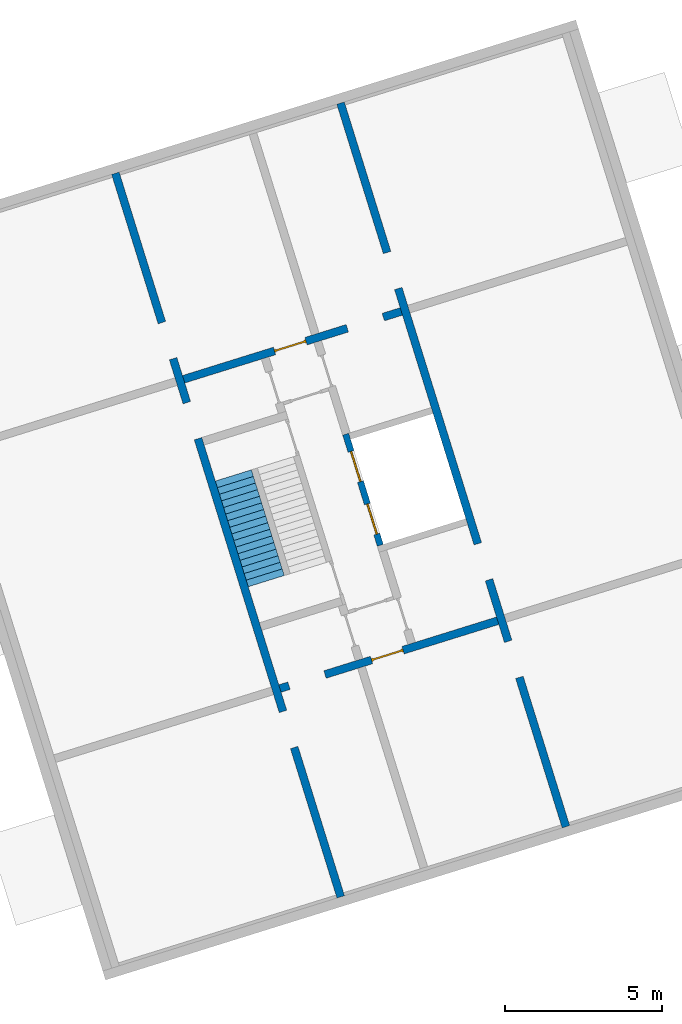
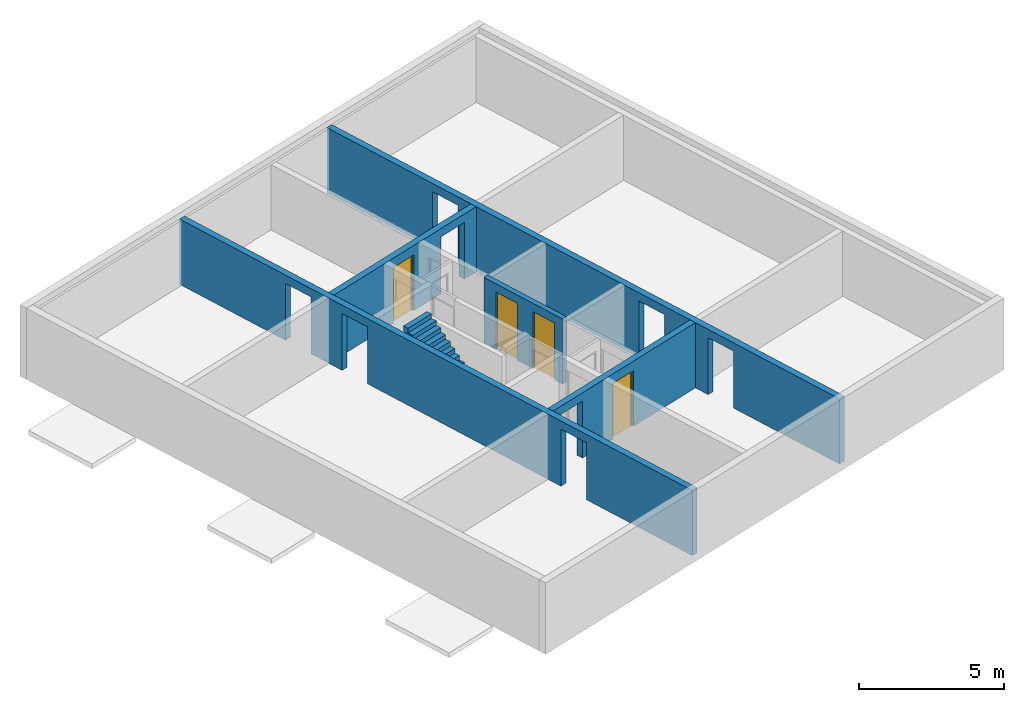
# One storey, part 3 of 4: 5 walls, 4 doors, 1 stair flight, 12 openings, 1 element without a shape of its own.
"""IFC4 building model written with IfcOpenShell, lengths in metres."""

import ifcopenshell
import ifcopenshell.guid

model = None  # the IFC model being written
_history = None  # IfcOwnerHistory: only IFC2X3 demands one
_inside = {}  # id of a spatial element -> (the spatial element, [elements in it])
_under = {}  # id of a project, library or spatial element -> (it, [spatial elements below it])
_declared = {}  # id of a project -> (the project, [libraries it declares])
_typed = {}  # id of a type object -> (the type object, [elements of that type])
_made_of = {}  # id of a material, layer set ... -> (it, [elements and type objects made of it])


def new_model(schema):
    """Start an empty IFC model of exactly this schema.

    Asked for "IFC4X3", IfcOpenShell would pick the latest addendum, in which some entities
    have other attributes; the version numbers below select the first issue.
    IFC2X3 requires an IfcOwnerHistory on every rooted entity: one is made here for all.
    """
    global model, _history
    if schema == "IFC4X3":
        model = ifcopenshell.file(schema_version=(4, 3, 0, 0))
    else:
        model = ifcopenshell.file(schema=schema)
    _inside.clear()
    _under.clear()
    _declared.clear()
    _typed.clear()
    _made_of.clear()
    _history = None
    if model.schema == "IFC2X3":
        org = make("IfcOrganization", Name="unknown")
        user = make(
            "IfcPersonAndOrganization",
            ThePerson=make("IfcPerson", FamilyName="unknown"),
            TheOrganization=org,
        )
        app = make(
            "IfcApplication",
            ApplicationDeveloper=org,
            Version="unknown",
            ApplicationFullName="unknown",
            ApplicationIdentifier="unknown",
        )
        _history = make(
            "IfcOwnerHistory",
            OwningUser=user,
            OwningApplication=app,
            ChangeAction="ADDED",
            CreationDate=0,
        )
    return model


def make(cls, **values):
    """One entity of the class cls with the attributes given. An attribute that is None is left unset."""
    return model.create_entity(
        cls, **{name: value for name, value in values.items() if value is not None}
    )


def entity(cls, *values):
    """Any entity or typed value of the class cls, its attributes in the order of the schema. None: left unset."""
    e = model.create_entity(cls)
    for i, value in enumerate(values):
        if value is not None:
            e[i] = value
    return e


def rooted(cls, **values):
    """An entity with a GlobalId (a new one), such as an element, a storey or a relation."""
    return make(cls, GlobalId=ifcopenshell.guid.new(), OwnerHistory=_history, **values)


def si_unit(unit_type, name, prefix=None):
    """IfcSIUnit, for example si_unit("LENGTHUNIT", "METRE", prefix="MILLI")."""
    return make("IfcSIUnit", UnitType=unit_type, Prefix=prefix, Name=name)


def converted_unit(unit_type, name, factor, base, dimensions=None, offset=None):
    """IfcConversionBasedUnit, such as the inch: factor (a typed value) times the base unit."""
    return make(
        "IfcConversionBasedUnit"
        if offset is None
        else "IfcConversionBasedUnitWithOffset",
        ConversionOffset=offset,
        Dimensions=None
        if dimensions is None
        else entity("IfcDimensionalExponents", *dimensions),
        UnitType=unit_type,
        Name=name,
        ConversionFactor=make(
            "IfcMeasureWithUnit", ValueComponent=factor, UnitComponent=base
        ),
    )


def assignment(units):
    """IfcUnitAssignment: the units of a project."""
    return None if units is None else make("IfcUnitAssignment", Units=units)


def point(xyz):
    """IfcCartesianPoint."""
    return None if xyz is None else make("IfcCartesianPoint", Coordinates=xyz)


def direction(xyz):
    """IfcDirection."""
    return None if xyz is None else make("IfcDirection", DirectionRatios=xyz)


def frame(location, z_axis=None, x_axis=None):
    """IfcAxis2Placement3D, a coordinate frame: its origin and axes. An axis left out is left unset."""
    return make(
        "IfcAxis2Placement3D",
        Location=point(location),
        Axis=direction(z_axis),
        RefDirection=direction(x_axis),
    )


def origin():
    """The frame at (0, 0, 0) with its axes left unset."""
    return frame((0.0, 0.0, 0.0))


def place(relative_to, where):
    """IfcLocalPlacement: puts the frame where relative to a parent placement (None: the world)."""
    return make(
        "IfcLocalPlacement", PlacementRelTo=relative_to, RelativePlacement=where
    )


def context(
    kind, dimensions, precision=None, world=None, true_north=None, identifier=None
):
    """IfcGeometricRepresentationContext, for example the 3D "Model" context."""
    return make(
        "IfcGeometricRepresentationContext",
        ContextIdentifier=identifier,
        ContextType=kind,
        CoordinateSpaceDimension=dimensions,
        Precision=precision,
        WorldCoordinateSystem=world,
        TrueNorth=true_north,
    )


def subcontext(parent, identifier, kind, view, scale=None):
    """IfcGeometricRepresentationSubContext, for example "Body" below "Model"."""
    return make(
        "IfcGeometricRepresentationSubContext",
        ContextIdentifier=identifier,
        ContextType=kind,
        ParentContext=parent,
        TargetScale=scale,
        TargetView=view,
    )


def project(units=None, contexts=None):
    """IfcProject with its units and contexts."""
    return rooted(
        "IfcProject",
        Name="project",
        RepresentationContexts=contexts,
        UnitsInContext=assignment(units),
    )


def spatial(cls, under=None, at=None, **own):
    """A site, building, storey or space (cls), placed at a placement, below another one or the project."""
    s = rooted(cls, ObjectPlacement=at, **own)
    if under is not None:
        _under.setdefault(under.id(), (under, []))[1].append(s)
    return s


def point_list(points):
    """IfcCartesianPointList2D or 3D."""
    cls = (
        "IfcCartesianPointList2D" if len(points[0]) == 2 else "IfcCartesianPointList3D"
    )
    return make(cls, CoordList=points)


def indexed_curve(points, segments=None, self_intersect=None):
    """IfcIndexedPolyCurve: lines and arcs through numbered points (the first is 1)."""
    return make(
        "IfcIndexedPolyCurve",
        Points=point_list(points),
        Segments=segments,
        SelfIntersect=self_intersect,
    )


def outline(outer, holes=None, kind="AREA"):
    """IfcArbitraryClosedProfileDef: a profile drawn as a closed curve; with holes, ...WithVoids."""
    if holes is None:
        return make("IfcArbitraryClosedProfileDef", ProfileType=kind, OuterCurve=outer)
    return make(
        "IfcArbitraryProfileDefWithVoids",
        ProfileType=kind,
        OuterCurve=outer,
        InnerCurves=holes,
    )


def extrude(swept, where, along, depth):
    """IfcExtrudedAreaSolid: the profile swept, set in the frame where, extruded along a direction by depth."""
    return make(
        "IfcExtrudedAreaSolid",
        SweptArea=swept,
        Position=where,
        ExtrudedDirection=direction(along),
        Depth=depth,
    )


def polygons(points, faces, closed=None, point_numbers=None):
    """IfcPolygonalFaceSet: a face is its outer loop, then its inner loops; points numbered from 1."""
    made = []
    for loops in faces:
        if len(loops) == 1:
            made.append(make("IfcIndexedPolygonalFace", CoordIndex=loops[0]))
        else:
            made.append(
                make(
                    "IfcIndexedPolygonalFaceWithVoids",
                    CoordIndex=loops[0],
                    InnerCoordIndices=loops[1:],
                )
            )
    return make(
        "IfcPolygonalFaceSet",
        Coordinates=point_list(points),
        Closed=closed,
        Faces=made,
        PnIndex=point_numbers,
    )


def shape(context_of_items, identifier, shape_type, items):
    """IfcShapeRepresentation: the items that make up one representation, for example the "Body"."""
    return make(
        "IfcShapeRepresentation",
        ContextOfItems=context_of_items,
        RepresentationIdentifier=identifier,
        RepresentationType=shape_type,
        Items=items,
    )


def source(mapping_origin, context_of_items, identifier, shape_type, items):
    """IfcRepresentationMap: a shape defined once, which mapped items show again and again."""
    return make(
        "IfcRepresentationMap",
        MappingOrigin=mapping_origin,
        MappedRepresentation=shape(context_of_items, identifier, shape_type, items),
    )


def transform(
    local_origin,
    x_axis=None,
    y_axis=None,
    z_axis=None,
    scale=None,
    scale2=None,
    scale3=None,
    uniform=True,
):
    """IfcCartesianTransformationOperator3D, or its non-uniform kind. x_axis, y_axis, z_axis: its Axis1, 2, 3."""
    if uniform:
        return make(
            "IfcCartesianTransformationOperator3D",
            Axis1=direction(x_axis),
            Axis2=direction(y_axis),
            LocalOrigin=point(local_origin),
            Scale=scale,
            Axis3=direction(z_axis),
        )
    return make(
        "IfcCartesianTransformationOperator3DnonUniform",
        Axis1=direction(x_axis),
        Axis2=direction(y_axis),
        LocalOrigin=point(local_origin),
        Scale=scale,
        Axis3=direction(z_axis),
        Scale2=scale2,
        Scale3=scale3,
    )


def mapped(mapping_source, mapping_target):
    """IfcMappedItem: shows the shape of a source again, moved by a transform."""
    return make(
        "IfcMappedItem", MappingSource=mapping_source, MappingTarget=mapping_target
    )


def material(Name=None, Category=None):
    """IfcMaterial."""
    return make("IfcMaterial", Name=Name, Category=Category)


def constituent(of_material, Name=None, Category=None, fraction=None):
    """IfcMaterialConstituent: one of the materials an element consists of."""
    return make(
        "IfcMaterialConstituent",
        Name=Name,
        Material=of_material,
        Fraction=fraction,
        Category=Category,
    )


def constituent_set(constituents=None, Name=None):
    """IfcMaterialConstituentSet."""
    return make(
        "IfcMaterialConstituentSet", Name=Name, MaterialConstituents=constituents
    )


def made_of(thing, what):
    """Note that an element or type object is made of a material, layer set ...; save() writes the relation."""
    if what is not None:
        _made_of.setdefault(what.id(), (what, []))[1].append(thing)
    return thing


def type_object(cls, material=None, **own):
    """A type object (cls), such as IfcWallType, which elements share."""
    return made_of(rooted(cls, **own), material)


def type_shapes(of_type, sources):
    """Give a type object the sources (RepresentationMaps) that its elements show as mapped items."""
    of_type.RepresentationMaps = sources


def element(
    cls,
    number,
    at=None,
    inside=None,
    cuts=None,
    type_object=None,
    material=None,
    context=None,
    identifier="Body",
    shape_type=None,
    held_by="IfcProductDefinitionShape",
    body=None,
    shapes=None,
    **own,
):
    """One element of the class cls, such as IfcWall. Its Tag is "e" and its number.

    at: its placement. inside: the storey or other place that contains it. cuts: it is an
    opening in that element (IfcRelVoidsElement). A single representation is given by context,
    identifier, shape_type and body (its items); several are given by shapes. held_by: the class
    of the entity that holds the representations. save() writes the other relations.
    """
    e = rooted(cls, Tag="e%d" % number, ObjectPlacement=at, **own)
    if body is not None:
        shapes = [shape(context, identifier, shape_type, body)]
    if shapes is not None:
        e.Representation = make(held_by, Representations=shapes)
    if inside is not None:
        _inside.setdefault(inside.id(), (inside, []))[1].append(e)
    if cuts is not None:
        rooted(
            "IfcRelVoidsElement", RelatingBuildingElement=cuts, RelatedOpeningElement=e
        )
    if type_object is not None:
        _typed.setdefault(type_object.id(), (type_object, []))[1].append(e)
    return made_of(e, material)


def fill(opening, filler):
    """IfcRelFillsElement: the door or window that sits in an opening."""
    return rooted(
        "IfcRelFillsElement",
        RelatingOpeningElement=opening,
        RelatedBuildingElement=filler,
    )


def aggregate(whole, parts):
    """IfcRelAggregates: a whole, such as a stair, and the parts it consists of."""
    return rooted("IfcRelAggregates", RelatingObject=whole, RelatedObjects=parts)


def save(model, path):
    """Write the relations noted so far, then the file.

    IfcRelAggregates (storeys below a building ...), IfcRelContainedInSpatialStructure (elements
    in a storey), IfcRelDefinesByType, IfcRelAssociatesMaterial and IfcRelDeclares: one each for
    every whole, place, type object, material and project.
    """
    for whole, parts in _under.values():
        aggregate(whole, parts)
    for where, things in _inside.values():
        rooted(
            "IfcRelContainedInSpatialStructure",
            RelatedElements=things,
            RelatingStructure=where,
        )
    for kind, things in _typed.values():
        rooted("IfcRelDefinesByType", RelatedObjects=things, RelatingType=kind)
    for what, things in _made_of.values():
        rooted("IfcRelAssociatesMaterial", RelatedObjects=things, RelatingMaterial=what)
    for by, libraries in _declared.values():
        rooted("IfcRelDeclares", RelatingContext=by, RelatedDefinitions=libraries)
    model.write(path)


model = new_model("IFC4")

# Units and contexts
model_context = context("Model", 3, precision=1e-05, world=origin(), true_north=direction((6.12323399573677e-17, 1.0)))
body_context = subcontext(model_context, "Body", "Model", "MODEL_VIEW")
ifc_project = project(units=[si_unit("LENGTHUNIT", "METRE"), si_unit("AREAUNIT", "SQUARE_METRE"), si_unit("VOLUMEUNIT", "CUBIC_METRE"), converted_unit("PLANEANGLEUNIT", "DEGREE", entity("IfcPlaneAngleMeasure", 0.0174532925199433), si_unit("PLANEANGLEUNIT", "RADIAN"), dimensions=[0, 0, 0, 0, 0, 0, 0])], contexts=[model_context])

# Site, building, storey
site_placement = place(None, frame((13.1347999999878, 11.9886000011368, 0.0), z_axis=(0.0, 0.0, 1.0), x_axis=(0.954770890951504, 0.297342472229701, 0.0)))
site = spatial("IfcSite", under=ifc_project, at=site_placement, Name="Schiehaven", CompositionType="ELEMENT")
building_placement = place(site_placement, origin())
building = spatial("IfcBuilding", under=site, at=building_placement, Name="VORM huis", CompositionType="ELEMENT")
storey_placement = place(building_placement, frame((0.0, 0.0, 21.9)))
storey = spatial("IfcBuildingStorey", under=building, at=storey_placement, Name="07 zevende verdieping", CompositionType="ELEMENT", Elevation=21.9)

# Wall, openings
ifc_material_1 = material(Name="beton_gewapend_ihw", Category="Miscellaneous")
wall_type_1 = type_object("IfcWallType", Name="Basic Wall:28_WA_skelet_wand 250mm_gen", PredefinedType="STANDARD")
wall_1_placement = place(storey_placement, frame((72.5000000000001, 5.0, 0.0), z_axis=(0.0, 0.0, 1.0), x_axis=(0.0, 1.0, 0.0)))
wall_1 = element("IfcWall", 1, at=wall_1_placement, inside=storey, type_object=wall_type_1, material=ifc_material_1, Name="Constructieve wand", ObjectType="Wand", PredefinedType="NOTDEFINED", context=body_context, shape_type="Tessellation", body=[
    polygons([(24.1, -0.125000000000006, 0.0), (24.1, -0.125000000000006, 2.75), (1.08286712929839e-15, -0.125000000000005, 2.75), (1.08286712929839e-15, -0.125000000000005, 0.0), (4.975, -0.125000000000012, 0.0), (4.975, -0.124999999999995, 2.4), (6.175, -0.124999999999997, 2.4), (6.175, -0.125000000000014, 0.0), (8.22500000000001, -0.125000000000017, 0.0), (8.22500000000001, -0.125, 2.4), (9.425, -0.124999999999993, 2.4), (9.425, -0.125000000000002, 0.0), (17.925, -0.125000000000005, 0.0), (17.925, -0.125000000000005, 2.4), (19.125, -0.125000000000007, 2.4), (19.125, -0.125000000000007, 0.0), (24.1, 0.124999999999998, 2.75), (24.1, 0.124999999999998, 0.0), (19.125, 0.124999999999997, 0.0), (19.125, 0.124999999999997, 2.4), (17.925, 0.124999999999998, 2.4), (17.925, 0.124999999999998, 0.0), (17.325, 0.124999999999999, 0.0), (17.075, 0.125, 0.0), (9.425, 0.125000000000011, 0.0), (9.425, 0.125000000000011, 2.4), (8.22500000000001, 0.124999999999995, 2.4), (8.22500000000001, 0.124999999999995, 0.0), (7.025, 0.124999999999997, 0.0), (6.775, 0.124999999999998, 0.0), (6.175, 0.124999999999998, 0.0), (6.175, 0.124999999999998, 2.4), (4.975, 0.125, 2.4), (4.975, 0.125, 0.0), (1.08286712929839e-15, 0.124999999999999, 0.0), (1.08286712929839e-15, 0.124999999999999, 2.75), (6.775, 0.124999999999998, 2.75), (7.025, 0.124999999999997, 2.75), (17.075, 0.125, 2.75), (17.325, 0.124999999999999, 2.75)], [[[1, 2, 3, 4, 5, 6, 7, 8, 9, 10, 11, 12, 13, 14, 15, 16]], [[17, 18, 19, 20, 21, 22, 23, 24, 25, 26, 27, 28, 29, 30, 31, 32, 33, 34, 35, 36, 37, 38, 39, 40]], [[4, 35, 34, 5]], [[2, 1, 18, 17]], [[3, 2, 17, 40, 39, 38, 37, 36]], [[4, 3, 36, 35]], [[6, 33, 32, 7]], [[33, 6, 5, 34]], [[7, 32, 31, 8]], [[10, 27, 26, 11]], [[27, 10, 9, 28]], [[11, 26, 25, 12]], [[14, 21, 20, 15]], [[21, 14, 13, 22]], [[15, 20, 19, 16]], [[8, 31, 30, 29, 28, 9]], [[12, 25, 24, 23, 22, 13]], [[18, 1, 16, 19]]], closed=True),
])
opening_1_placement = place(wall_1_placement, origin())
element("IfcOpeningElement", 2, at=opening_1_placement, cuts=wall_1, Name="Constructieve wand", PredefinedType="OPENING", context=body_context, shape_type="SweptSolid", body=[
    extrude(outline(indexed_curve([(-1.2, -0.599999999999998), (1.2, -0.599999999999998), (1.2, 0.599999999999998), (-1.2, 0.599999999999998), (-1.2, -0.599999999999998)], self_intersect=False)), frame((5.575, -0.124999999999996, 1.2), z_axis=(0.0, 1.0, 0.0), x_axis=(0.0, 0.0, -1.0)), (0.0, 0.0, 1.0), 0.249999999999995),
])
opening_2_placement = place(wall_1_placement, origin())
element("IfcOpeningElement", 3, at=opening_2_placement, cuts=wall_1, Name="Constructieve wand", PredefinedType="OPENING", context=body_context, shape_type="SweptSolid", body=[
    extrude(outline(indexed_curve([(-1.2, -0.599999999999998), (1.2, -0.599999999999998), (1.2, 0.599999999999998), (-1.2, 0.599999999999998), (-1.2, -0.599999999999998)], self_intersect=False)), frame((8.82500000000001, -0.124999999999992, 1.2), z_axis=(0.0, 1.0, 0.0), x_axis=(0.0, 0.0, -1.0)), (0.0, 0.0, 1.0), 0.250000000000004),
])
opening_3_placement = place(wall_1_placement, origin())
element("IfcOpeningElement", 4, at=opening_3_placement, cuts=wall_1, Name="Constructieve wand", PredefinedType="OPENING", context=body_context, shape_type="SweptSolid", body=[
    extrude(outline(indexed_curve([(-1.2, -0.600000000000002), (1.2, -0.600000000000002), (1.2, 0.599999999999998), (-1.2, 0.599999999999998), (-1.2, -0.600000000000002)], self_intersect=False)), frame((18.525, -0.124999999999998, 1.2), z_axis=(0.0, 1.0, 0.0), x_axis=(0.0, 0.0, -1.0)), (0.0, 0.0, 1.0), 0.249999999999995),
])

# Wall, openings, door
wall_2_placement = place(storey_placement, frame((72.3750000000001, 22.1999999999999, 0.0), z_axis=(0.0, 0.0, 1.0), x_axis=(-1.0, 0.0, 0.0)))
wall_2 = element("IfcWall", 5, at=wall_2_placement, inside=storey, type_object=wall_type_1, material=ifc_material_1, Name="Constructieve wand", ObjectType="Wand", PredefinedType="NOTDEFINED", context=body_context, shape_type="Tessellation", body=[
    polygons([(4.22499999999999, -0.124999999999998, 2.34999999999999), (4.22499999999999, -0.124999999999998, 0.0), (7.24999999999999, -0.124999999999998, 0.0), (7.24999999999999, -0.124999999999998, 2.75), (5.55409093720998e-16, -0.124999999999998, 2.75), (5.55409093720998e-16, -0.124999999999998, 0.0), (0.599999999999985, -0.124999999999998, 0.0), (0.599999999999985, -0.124999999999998, 2.4), (1.79999999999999, -0.124999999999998, 2.4), (1.79999999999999, -0.124999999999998, 0.0), (3.17499999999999, -0.124999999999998, 0.0), (3.17499999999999, -0.124999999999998, 2.34999999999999), (7.24999999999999, 0.125000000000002, 0.0), (4.22499999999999, 0.125000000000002, 0.0), (4.22499999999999, 0.125000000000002, 2.34999999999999), (3.17499999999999, 0.125000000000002, 2.34999999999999), (3.17499999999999, 0.125000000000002, 0.0), (1.79999999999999, 0.125000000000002, 0.0), (1.79999999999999, 0.125000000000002, 2.4), (0.599999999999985, 0.125000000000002, 2.4), (0.599999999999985, 0.125000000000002, 0.0), (5.49189507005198e-16, 0.125000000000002, 0.0), (5.49189507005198e-16, 0.125000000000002, 2.75), (7.24999999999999, 0.125000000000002, 2.75)], [[[1, 2, 3, 4, 5, 6, 7, 8, 9, 10, 11, 12]], [[13, 14, 15, 16, 17, 18, 19, 20, 21, 22, 23, 24]], [[6, 22, 21, 7]], [[5, 4, 24, 23]], [[4, 3, 13, 24]], [[17, 16, 12, 11]], [[15, 14, 2, 1]], [[16, 15, 1, 12]], [[20, 8, 7, 21]], [[9, 19, 18, 10]], [[8, 20, 19, 9]], [[6, 5, 23, 22]], [[11, 10, 18, 17]], [[3, 2, 14, 13]]], closed=True),
])
opening_4_placement = place(wall_2_placement, origin())
element("IfcOpeningElement", 6, at=opening_4_placement, cuts=wall_2, Name="Constructieve wand", PredefinedType="OPENING", context=body_context, shape_type="SweptSolid", body=[
    extrude(outline(indexed_curve([(-1.2, -0.600000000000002), (1.2, -0.600000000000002), (1.2, 0.600000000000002), (-1.2, 0.600000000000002), (-1.2, -0.600000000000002)], self_intersect=False)), frame((1.19999999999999, -0.125000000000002, 1.2), z_axis=(0.0, 1.0, 0.0), x_axis=(0.0, 0.0, -1.0)), (0.0, 0.0, 1.0), 0.250000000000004),
])
opening_5_placement = place(wall_2_placement, frame((3.17499999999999, -0.125000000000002, 0.0)))
opening_5 = element("IfcOpeningElement", 7, at=opening_5_placement, cuts=wall_2, Name="Woningtoegangsdeur", PredefinedType="OPENING", context=body_context, shape_type="SweptSolid", body=[
    extrude(outline(indexed_curve([(2.34999999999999, -4.20936625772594e-34), (2.34999999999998, 1.05), (0.0, 1.05), (2.16573425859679e-15, -4.20936625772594e-34), (2.34999999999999, -4.20936625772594e-34)], self_intersect=False)), frame((0.0, 0.0, 0.0), z_axis=(0.0, 1.0, 0.0), x_axis=(0.0, 0.0, 1.0)), (0.0, 0.0, 1.0), 0.25),
])
ifc_material_2 = material(Name="PD_a_binnenwandopeningen", Category="Miscellaneous")
ifc_constituent_1 = constituent(ifc_material_2, Name="PD_a_binnenwandopeningen", Category="Miscellaneous")
ifc_material_3 = material(Name="metaal_aluminium_ntb", Category="Miscellaneous")
ifc_constituent_2 = constituent(ifc_material_3, Name="metaal_aluminium_ntb", Category="Miscellaneous")
ifc_constituent_set_1 = constituent_set(constituents=[ifc_constituent_1, ifc_constituent_2])
ifc_constituent_3 = constituent(ifc_material_2, Name="PD_a_binnenwandopeningen", Category="Miscellaneous")
ifc_constituent_4 = constituent(ifc_material_3, Name="Panel", Category="Miscellaneous")
ifc_constituent_set_2 = constituent_set(constituents=[ifc_constituent_3, ifc_constituent_4])
door_type_1 = type_object("IfcDoorType", Name="32_DO_binnendeur enkel:woningtoegangsdeur", OperationType="REVOLVING", PredefinedType="DOOR", material=ifc_constituent_set_2)
shared_shape_1 = source(origin(), body_context, "Body", "SweptSolid", [
    extrude(outline(indexed_curve([(0.475, -1.16249999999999), (0.525000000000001, -1.16249999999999), (0.525000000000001, 1.18749999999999), (-0.525000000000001, 1.18749999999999), (-0.525000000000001, -1.16249999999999), (-0.475, -1.16249999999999), (-0.475, 1.13749999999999), (0.475, 1.13749999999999), (0.475, -1.16249999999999)], self_intersect=False)), frame((0.525000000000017, 0.174999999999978, 1.16249999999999), z_axis=(0.0, -1.0, 0.0), x_axis=(1.0, 0.0, 0.0)), (0.0, 0.0, 1.0), 0.1),
    extrude(outline(indexed_curve([(-0.475, -0.025), (0.475, -0.025), (0.475, 0.025), (-0.475, 0.025), (-0.475, -0.025)], self_intersect=False)), frame((0.525000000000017, 0.12499999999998, 0.0)), (0.0, 0.0, 1.0), 2.29999999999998),
])
type_shapes(door_type_1, [shared_shape_1])
door_1_placement = place(opening_5_placement, origin())
door_1 = element("IfcDoor", 8, at=door_1_placement, inside=storey, type_object=door_type_1, material=ifc_constituent_set_1, Name="Woningtoegangsdeur", ObjectType="Deur", OperationType="REVOLVING", OverallHeight=2.34999999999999, OverallWidth=1.05, PredefinedType="DOOR", context=body_context, shape_type="MappedRepresentation", body=[
    mapped(shared_shape_1, transform((0.0, 0.0, 0.0), scale=1.0)),
])
fill(opening_5, door_1)

# Wall, openings
wall_3_placement = place(storey_placement, frame((65.0, 29.0999999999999, 0.0), z_axis=(0.0, 0.0, 1.0), x_axis=(0.0, -1.0, 0.0)))
wall_3 = element("IfcWall", 9, at=wall_3_placement, inside=storey, type_object=wall_type_1, material=ifc_material_1, Name="Constructieve wand", ObjectType="Wand", PredefinedType="NOTDEFINED", context=body_context, shape_type="Tessellation", body=[
    polygons([(24.1, -0.125, 0.0), (24.1, -0.125, 2.75), (0.0, -0.125000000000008, 2.75), (0.0, -0.125000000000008, 0.0), (4.975, -0.125000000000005, 0.0), (4.975, -0.125000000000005, 2.4), (6.175, -0.125000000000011, 2.4), (6.175, -0.125000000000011, 0.0), (7.64, -0.125000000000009, 0.0), (7.64, -0.125000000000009, 2.4), (8.84, -0.124999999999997, 2.4), (8.84, -0.124999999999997, 0.0), (17.925, -0.125000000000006, 0.0), (17.925, -0.124999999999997, 2.4), (19.125, -0.125000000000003, 2.4), (19.125, -0.125000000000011, 0.0), (24.1, 0.124999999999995, 2.75), (24.1, 0.124999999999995, 0.0), (19.125, 0.125000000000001, 0.0), (19.125, 0.125000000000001, 2.4), (17.925, 0.125000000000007, 2.4), (17.925, 0.125000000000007, 0.0), (17.325, 0.124999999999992, 0.0), (17.075, 0.124999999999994, 0.0), (8.84, 0.124999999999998, 0.0), (8.84, 0.124999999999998, 2.4), (7.64, 0.124999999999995, 2.4), (7.64, 0.124999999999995, 0.0), (7.025, 0.124999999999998, 0.0), (6.775, 0.124999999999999, 0.0), (6.175, 0.124999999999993, 0.0), (6.175, 0.124999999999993, 2.4), (4.975, 0.124999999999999, 2.4), (4.975, 0.124999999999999, 0.0), (0.0, 0.124999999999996, 0.0), (0.0, 0.124999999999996, 2.75), (6.775, 0.124999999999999, 2.75), (7.025, 0.124999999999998, 2.75), (17.075, 0.124999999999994, 2.75), (17.325, 0.124999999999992, 2.75)], [[[1, 2, 3, 4, 5, 6, 7, 8, 9, 10, 11, 12, 13, 14, 15, 16]], [[17, 18, 19, 20, 21, 22, 23, 24, 25, 26, 27, 28, 29, 30, 31, 32, 33, 34, 35, 36, 37, 38, 39, 40]], [[4, 35, 34, 5]], [[2, 1, 18, 17]], [[3, 2, 17, 40, 39, 38, 37, 36]], [[4, 3, 36, 35]], [[6, 33, 32, 7]], [[33, 6, 5, 34]], [[7, 32, 31, 8]], [[10, 27, 26, 11]], [[27, 10, 9, 28]], [[11, 26, 25, 12]], [[14, 21, 20, 15]], [[21, 14, 13, 22]], [[15, 20, 19, 16]], [[8, 31, 30, 29, 28, 9]], [[12, 25, 24, 23, 22, 13]], [[18, 1, 16, 19]]], closed=True),
])
opening_6_placement = place(wall_3_placement, origin())
element("IfcOpeningElement", 10, at=opening_6_placement, cuts=wall_3, Name="Constructieve wand", PredefinedType="OPENING", context=body_context, shape_type="SweptSolid", body=[
    extrude(outline(indexed_curve([(-1.2, -0.599999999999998), (1.2, -0.599999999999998), (1.2, 0.599999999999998), (-1.2, 0.599999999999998), (-1.2, -0.599999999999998)], self_intersect=False)), frame((5.575, -0.124999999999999, 1.2), z_axis=(0.0, 1.0, 0.0), x_axis=(0.0, 0.0, -1.0)), (0.0, 0.0, 1.0), 0.249999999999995),
])
opening_7_placement = place(wall_3_placement, origin())
element("IfcOpeningElement", 11, at=opening_7_placement, cuts=wall_3, Name="Constructieve wand", PredefinedType="OPENING", context=body_context, shape_type="SweptSolid", body=[
    extrude(outline(indexed_curve([(-1.2, -0.599999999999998), (1.2, -0.599999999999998), (1.2, 0.599999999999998), (-1.2, 0.599999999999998), (-1.2, -0.599999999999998)], self_intersect=False)), frame((8.24, -0.125000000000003, 1.2), z_axis=(0.0, 1.0, 0.0), x_axis=(0.0, 0.0, -1.0)), (0.0, 0.0, 1.0), 0.250000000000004),
])
opening_8_placement = place(wall_3_placement, origin())
element("IfcOpeningElement", 12, at=opening_8_placement, cuts=wall_3, Name="Constructieve wand", PredefinedType="OPENING", context=body_context, shape_type="SweptSolid", body=[
    extrude(outline(indexed_curve([(-1.2, -0.599999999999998), (1.2, -0.599999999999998), (1.2, 0.599999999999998), (-1.2, 0.599999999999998), (-1.2, -0.599999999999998)], self_intersect=False)), frame((18.525, -0.125, 1.2), z_axis=(0.0, 1.0, 0.0), x_axis=(0.0, 0.0, -1.0)), (0.0, 0.0, 1.0), 0.249999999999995),
])

# Wall, openings, door
wall_4_placement = place(storey_placement, frame((65.1250000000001, 11.8999999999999, 0.0)))
wall_4 = element("IfcWall", 13, at=wall_4_placement, inside=storey, type_object=wall_type_1, material=ifc_material_1, Name="Constructieve wand", ObjectType="Wand", PredefinedType="NOTDEFINED", context=body_context, shape_type="Tessellation", body=[
    polygons([(4.09999999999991, -0.125, 2.34999999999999), (4.09999999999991, -0.125, 0.0), (7.24999999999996, -0.125000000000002, 0.0), (7.24999999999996, -0.125000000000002, 2.75), (-2.44260404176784e-15, -0.125, 2.75), (-2.44260404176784e-15, -0.125, 0.0), (0.29999999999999, -0.125000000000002, 0.0), (0.29999999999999, -0.125000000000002, 2.4), (1.49999999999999, -0.125, 2.4), (1.49999999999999, -0.125, 0.0), (3.04999999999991, -0.125000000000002, 0.0), (3.04999999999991, -0.125000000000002, 2.34999999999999), (7.24999999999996, 0.124999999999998, 0.0), (4.09999999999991, 0.125, 0.0), (4.09999999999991, 0.125, 2.34999999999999), (3.04999999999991, 0.124999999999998, 2.34999999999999), (3.04999999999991, 0.124999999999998, 0.0), (1.49999999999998, 0.125, 0.0), (1.49999999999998, 0.125, 2.4), (0.299999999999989, 0.124999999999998, 2.4), (0.299999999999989, 0.124999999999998, 0.0), (-3.2301699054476e-15, 0.125, 0.0), (-3.2301699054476e-15, 0.125, 2.75), (7.24999999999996, 0.124999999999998, 2.75)], [[[1, 2, 3, 4, 5, 6, 7, 8, 9, 10, 11, 12]], [[13, 14, 15, 16, 17, 18, 19, 20, 21, 22, 23, 24]], [[6, 22, 21, 7]], [[5, 4, 24, 23]], [[17, 16, 12, 11]], [[15, 14, 2, 1]], [[16, 15, 1, 12]], [[8, 20, 19, 9]], [[20, 8, 7, 21]], [[9, 19, 18, 10]], [[6, 5, 23, 22]], [[4, 3, 13, 24]], [[11, 10, 18, 17]], [[3, 2, 14, 13]]], closed=True),
])
opening_9_placement = place(wall_4_placement, origin())
element("IfcOpeningElement", 14, at=opening_9_placement, cuts=wall_4, Name="Constructieve wand", PredefinedType="OPENING", context=body_context, shape_type="SweptSolid", body=[
    extrude(outline(indexed_curve([(-1.2, -0.599999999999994), (1.2, -0.599999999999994), (1.2, 0.600000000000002), (-1.2, 0.600000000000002), (-1.2, -0.599999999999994)], self_intersect=False)), frame((0.899999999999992, -0.125, 1.2), z_axis=(0.0, 1.0, 0.0), x_axis=(0.0, 0.0, -1.0)), (0.0, 0.0, 1.0), 0.249999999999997),
])
opening_10_placement = place(wall_4_placement, frame((3.0499999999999, -0.125000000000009, 0.0)))
opening_10 = element("IfcOpeningElement", 15, at=opening_10_placement, cuts=wall_4, Name="Woningtoegangsdeur", PredefinedType="OPENING", context=body_context, shape_type="SweptSolid", body=[
    extrude(outline(indexed_curve([(2.34999999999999, -3.25141127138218e-30), (2.34999999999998, 1.05), (0.0, 1.05), (2.16573425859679e-15, -3.25141127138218e-30), (2.34999999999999, -3.25141127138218e-30)], self_intersect=False)), frame((0.0, 0.0, 0.0), z_axis=(0.0, 1.0, 0.0), x_axis=(0.0, 0.0, 1.0)), (0.0, 0.0, 1.0), 0.25),
])
ifc_constituent_5 = constituent(ifc_material_2, Name="PD_a_binnenwandopeningen", Category="Miscellaneous")
ifc_constituent_6 = constituent(ifc_material_3, Name="metaal_aluminium_ntb", Category="Miscellaneous")
ifc_constituent_set_3 = constituent_set(constituents=[ifc_constituent_5, ifc_constituent_6])
door_2_placement = place(opening_10_placement, origin())
door_2 = element("IfcDoor", 16, at=door_2_placement, inside=storey, type_object=door_type_1, material=ifc_constituent_set_3, Name="Woningtoegangsdeur", ObjectType="Deur", OperationType="REVOLVING", OverallHeight=2.34999999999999, OverallWidth=1.05, PredefinedType="DOOR", context=body_context, shape_type="MappedRepresentation", body=[
    mapped(shared_shape_1, transform((0.0, 0.0, 0.0), scale=1.0)),
])
fill(opening_10, door_2)

# Wall, openings, doors
ifc_material_4 = material(Name="beton_gewapend_prefab-element", Category="Miscellaneous")
wall_type_2 = type_object("IfcWallType", Name="Basic Wall:28_WA_skelet_wand 200mm_gen", PredefinedType="STANDARD")
wall_5_placement = place(storey_placement, frame((69.5250000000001, 15.2999999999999, 0.0), z_axis=(0.0, 0.0, 1.0), x_axis=(0.0, 1.0, 0.0)))
wall_5 = element("IfcWall", 17, at=wall_5_placement, inside=storey, type_object=wall_type_2, material=ifc_material_4, Name="Constructieve wand", ObjectType="Wand", PredefinedType="NOTDEFINED", context=body_context, shape_type="Tessellation", body=[
    polygons([(3.69999999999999, -0.100000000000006, 2.75), (3.49999999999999, -0.0999999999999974, 2.75), (0.0, -0.100000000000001, 2.75), (0.0, -0.100000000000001, 0.0), (0.374999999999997, -0.100000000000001, 0.0), (0.374999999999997, -0.100000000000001, 2.39999999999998), (1.37499999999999, -0.100000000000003, 2.39999999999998), (1.37499999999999, -0.100000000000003, 0.0), (2.125, -0.100000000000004, 0.0), (2.125, -0.100000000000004, 2.39999999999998), (3.125, -0.0999999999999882, 2.39999999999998), (3.125, -0.100000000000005, 0.0), (3.49999999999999, -0.0999999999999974, 0.0), (3.69999999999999, -0.100000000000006, 0.0), (0.0, 0.100000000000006, 2.75), (3.69999999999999, 0.1, 2.75), (3.69999999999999, 0.1, 0.0), (3.125, 0.100000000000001, 0.0), (3.125, 0.100000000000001, 2.39999999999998), (2.125, 0.100000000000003, 2.39999999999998), (2.125, 0.100000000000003, 0.0), (1.37499999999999, 0.100000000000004, 0.0), (1.37499999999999, 0.100000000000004, 2.39999999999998), (0.374999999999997, 0.100000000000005, 2.39999999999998), (0.374999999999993, 0.100000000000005, 0.0), (0.0, 0.100000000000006, 0.0)], [[[1, 2, 3, 4, 5, 6, 7, 8, 9, 10, 11, 12, 13, 14]], [[15, 16, 17, 18, 19, 20, 21, 22, 23, 24, 25, 26]], [[5, 4, 26, 25]], [[3, 2, 1, 16, 15]], [[7, 23, 22, 8]], [[24, 6, 5, 25]], [[23, 7, 6, 24]], [[11, 19, 18, 12]], [[20, 10, 9, 21]], [[19, 11, 10, 20]], [[1, 14, 17, 16]], [[4, 3, 15, 26]], [[8, 22, 21, 9]], [[17, 14, 13, 12, 18]]], closed=True),
])
opening_11_placement = place(wall_5_placement, frame((-15.2999999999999, 69.5250000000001, 0.0), z_axis=(0.0, 0.0, 1.0), x_axis=(0.0, -1.0, 0.0)))
opening_11 = element("IfcOpeningElement", 18, at=opening_11_placement, cuts=wall_5, Name="Brandweerlift", PredefinedType="OPENING", context=body_context, shape_type="SweptSolid", body=[
    extrude(outline(indexed_curve([(-1.19999999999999, -0.499999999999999), (1.19999999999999, -0.499999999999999), (1.19999999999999, 0.500000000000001), (-1.19999999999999, 0.500000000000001), (-1.19999999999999, -0.499999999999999)], self_intersect=False)), frame((70.0126380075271, 16.1749999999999, 1.19999999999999), z_axis=(-1.0, 0.0, 0.0), x_axis=(0.0, 0.0, -1.0)), (0.0, 0.0, 1.0), 0.756310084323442),
])
opening_12_placement = place(wall_5_placement, frame((-15.2999999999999, 69.5250000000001, 0.0), z_axis=(0.0, 0.0, 1.0), x_axis=(0.0, -1.0, 0.0)))
opening_12 = element("IfcOpeningElement", 19, at=opening_12_placement, cuts=wall_5, Name="Brandweerlift", PredefinedType="OPENING", context=body_context, shape_type="SweptSolid", body=[
    extrude(outline(indexed_curve([(-1.19999999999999, -0.499999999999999), (1.19999999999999, -0.499999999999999), (1.19999999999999, 0.500000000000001), (-1.19999999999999, 0.500000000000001), (-1.19999999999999, -0.499999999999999)], self_intersect=False)), frame((70.0126380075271, 17.9249999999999, 1.19999999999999), z_axis=(-1.0, 0.0, 0.0), x_axis=(0.0, 0.0, -1.0)), (0.0, 0.0, 1.0), 0.756310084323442),
])
door_type_2 = type_object("IfcDoorType", Name="66_WI_liftdeur:brandweerlift - tweezijdig toegankelijk", OperationType="NOTDEFINED", PredefinedType="DOOR", material=ifc_material_3)
shared_shape_2 = source(origin(), body_context, "Body", "SweptSolid", [
    extrude(outline(indexed_curve([(-0.25, -0.0250000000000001), (0.25, -0.0249999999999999), (0.25, 0.0250000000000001), (-0.25, 0.0249999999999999), (-0.25, -0.0250000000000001)], self_intersect=False)), frame((0.750000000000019, -0.28763800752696, 0.0)), (0.0, 0.0, 1.0), 2.39999999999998),
    extrude(outline(indexed_curve([(-0.25, -0.0250000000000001), (0.25, -0.0249999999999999), (0.25, 0.0250000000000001), (-0.25, 0.0249999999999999), (-0.25, -0.0250000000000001)], self_intersect=False)), frame((0.250000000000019, -0.287638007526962, 0.0)), (0.0, 0.0, 1.0), 2.39999999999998),
])
type_shapes(door_type_2, [shared_shape_2])
door_3_placement = place(opening_11_placement, frame((69.2373619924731, 15.6749999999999, 0.0), z_axis=(0.0, 0.0, 1.0), x_axis=(0.0, 1.0, 0.0)))
door_3 = element("IfcDoor", 20, at=door_3_placement, inside=storey, type_object=door_type_2, material=ifc_material_3, Name="Brandweerlift", ObjectType="Transport", OperationType="NOTDEFINED", OverallHeight=2.39999999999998, OverallWidth=1.0, PredefinedType="DOOR", context=body_context, shape_type="MappedRepresentation", body=[
    mapped(shared_shape_2, transform((0.0, 0.0, 0.0), scale=1.0)),
])
fill(opening_11, door_3)
door_4_placement = place(opening_12_placement, frame((69.2373619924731, 17.4249999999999, 0.0), z_axis=(0.0, 0.0, 1.0), x_axis=(0.0, 1.0, 0.0)))
door_4 = element("IfcDoor", 21, at=door_4_placement, inside=storey, type_object=door_type_2, material=ifc_material_3, Name="Brandweerlift", ObjectType="Transport", OperationType="NOTDEFINED", OverallHeight=2.39999999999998, OverallWidth=1.0, PredefinedType="DOOR", context=body_context, shape_type="MappedRepresentation", body=[
    mapped(shared_shape_2, transform((0.0, 0.0, 0.0), scale=1.0)),
])
fill(opening_12, door_4)

# Stair, stair flight
stair_type = type_object("IfcStairType", Name="Trap", PredefinedType="STRAIGHT_RUN_STAIR")
stair_placement = place(storey_placement, origin())
stair = element("IfcStair", 22, at=stair_placement, inside=storey, type_object=stair_type, Name="Hoofdtrap", ObjectType="Trap", PredefinedType="STRAIGHT_RUN_STAIR")
stair_flight_type = type_object("IfcStairFlightType", Name="Monolithic Run:NLRS_24_STRR_trap-beton prefab-monolithisch-recht_gen_rsf", PredefinedType="STRAIGHT")
stair_flight_placement = place(stair_placement, frame((65.1250000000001, 15.2899999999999, 0.0)))
stair_flight = element("IfcStairFlight", 23, at=stair_flight_placement, type_object=stair_flight_type, material=ifc_material_4, Name="Hoofdtrap Run 1", ObjectType="Monolithic Run:NLRS_24_STRR_trap-beton prefab-monolithisch-recht_gen_rsf", PredefinedType="STRAIGHT", context=body_context, shape_type="Tessellation", body=[
    polygons([(0.0, 0.219999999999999, 0.1875), (0.0, 1.77635683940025e-15, 0.1875), (1.2, 1.77635683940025e-15, 0.1875), (1.2, 0.219999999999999, 0.1875), (1.2, 1.77635683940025e-15, 0.0), (1.2, 0.219999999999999, 0.0), (0.0, 1.77635683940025e-15, 0.0), (0.0, 0.219999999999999, 0.0), (0.0, 0.44, 0.375000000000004), (0.0, 0.219999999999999, 0.375000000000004), (1.2, 0.219999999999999, 0.375000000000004), (1.2, 0.44, 0.375000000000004), (1.2, 0.231248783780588, 0.0), (1.2, 0.44, 0.177912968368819), (0.0, 0.44, 0.177912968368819), (0.0, 0.231248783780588, 0.0), (0.0, 0.66, 0.562500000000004), (0.0, 0.44, 0.562500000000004), (1.2, 0.44, 0.562500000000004), (1.2, 0.66, 0.562500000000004), (1.2, 0.66, 0.365412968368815), (0.0, 0.66, 0.365412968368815), (0.0, 0.879999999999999, 0.75), (0.0, 0.66, 0.75), (1.2, 0.66, 0.75), (1.2, 0.879999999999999, 0.75), (1.2, 0.880000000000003, 0.552912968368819), (0.0, 0.880000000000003, 0.552912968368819), (0.0, 1.1, 0.9375), (0.0, 0.880000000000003, 0.9375), (1.2, 0.880000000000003, 0.9375), (1.2, 1.1, 0.9375), (1.2, 1.1, 0.740412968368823), (0.0, 1.1, 0.740412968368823), (0.0, 1.32, 1.125), (0.0, 1.1, 1.125), (1.2, 1.1, 1.125), (1.2, 1.32, 1.125), (1.2, 1.32, 0.927912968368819), (0.0, 1.32, 0.927912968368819), (0.0, 1.53999999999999, 1.3125), (0.0, 1.32, 1.3125), (1.2, 1.32, 1.3125), (1.2, 1.54, 1.3125), (1.2, 1.54, 1.11541296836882), (0.0, 1.54, 1.11541296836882), (0.0, 1.75999999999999, 1.5), (0.0, 1.53999999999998, 1.5), (1.2, 1.53999999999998, 1.5), (1.2, 1.75999999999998, 1.5), (1.2, 1.75999999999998, 1.3029129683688), (0.0, 1.75999999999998, 1.3029129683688), (-1.4210854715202e-14, 1.98, 1.6875), (-1.4210854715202e-14, 1.76, 1.6875), (1.19999999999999, 1.76, 1.6875), (1.19999999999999, 1.98, 1.6875), (1.19999999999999, 1.98, 1.49041296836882), (-1.4210854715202e-14, 1.98, 1.49041296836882), (-1.4210854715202e-14, 2.2, 1.875), (-1.4210854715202e-14, 1.98, 1.875), (1.19999999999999, 1.98, 1.875), (1.19999999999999, 2.2, 1.875), (1.19999999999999, 2.2, 1.67791296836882), (-1.4210854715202e-14, 2.2, 1.67791296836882), (-1.4210854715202e-14, 2.42, 2.0625), (-1.4210854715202e-14, 2.2, 2.0625), (1.19999999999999, 2.2, 2.0625), (1.19999999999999, 2.42, 2.0625), (1.19999999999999, 2.42, 1.86541296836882), (-1.4210854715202e-14, 2.42, 1.86541296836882), (-1.4210854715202e-14, 2.64, 2.25), (-1.4210854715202e-14, 2.42, 2.25), (1.19999999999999, 2.42, 2.25), (1.19999999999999, 2.64, 2.25), (1.19999999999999, 2.64, 2.05291296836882), (-1.4210854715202e-14, 2.64, 2.05291296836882), (-1.4210854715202e-14, 2.86, 2.4375), (-1.4210854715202e-14, 2.64, 2.4375), (1.19999999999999, 2.64, 2.4375), (1.19999999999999, 2.86, 2.4375), (1.19999999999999, 2.86, 2.24041296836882), (-1.4210854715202e-14, 2.86, 2.24041296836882), (-1.4210854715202e-14, 3.08, 2.625), (-1.4210854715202e-14, 2.86, 2.625), (1.19999999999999, 2.86, 2.625), (1.19999999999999, 3.08, 2.625), (1.19999999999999, 3.08, 2.42791296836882), (-1.4210854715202e-14, 3.08, 2.42791296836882), (-1.4210854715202e-14, 3.3, 2.8125), (-1.4210854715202e-14, 3.08, 2.8125), (1.19999999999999, 3.08, 2.8125), (1.19999999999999, 3.3, 2.8125), (1.19999999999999, 3.3, 2.61541296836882), (-1.4210854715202e-14, 3.3, 2.61541296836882), (-1.4210854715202e-14, 3.52, 3.0), (-1.4210854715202e-14, 3.3, 3.0), (1.19999999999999, 3.3, 3.0), (1.19999999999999, 3.52, 3.0), (1.19999999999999, 3.52, 2.80291296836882), (-1.4210854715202e-14, 3.52, 2.80291296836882)], [[[1, 2, 3, 4]], [[4, 3, 5, 6]], [[3, 2, 7, 5]], [[2, 1, 8, 7]], [[9, 10, 11, 12]], [[4, 6, 13, 14, 12, 11]], [[1, 4, 11, 10]], [[8, 1, 10, 9, 15, 16]], [[17, 18, 19, 20]], [[20, 19, 12, 14, 21]], [[9, 12, 19, 18]], [[18, 17, 22, 15, 9]], [[23, 24, 25, 26]], [[26, 25, 20, 21, 27]], [[17, 20, 25, 24]], [[24, 23, 28, 22, 17]], [[29, 30, 31, 32]], [[32, 31, 26, 27, 33]], [[23, 26, 31, 30]], [[30, 29, 34, 28, 23]], [[35, 36, 37, 38]], [[38, 37, 32, 33, 39]], [[29, 32, 37, 36]], [[36, 35, 40, 34, 29]], [[41, 42, 43, 44]], [[44, 43, 38, 39, 45]], [[35, 38, 43, 42]], [[42, 41, 46, 40, 35]], [[47, 48, 49, 50]], [[50, 49, 44, 45, 51]], [[41, 44, 49, 48]], [[48, 47, 52, 46, 41]], [[53, 54, 55, 56]], [[56, 55, 50, 51, 57]], [[47, 50, 55, 54]], [[54, 53, 58, 52, 47]], [[59, 60, 61, 62]], [[62, 61, 56, 57, 63]], [[53, 56, 61, 60]], [[60, 59, 64, 58, 53]], [[65, 66, 67, 68]], [[68, 67, 62, 63, 69]], [[59, 62, 67, 66]], [[66, 65, 70, 64, 59]], [[71, 72, 73, 74]], [[74, 73, 68, 69, 75]], [[65, 68, 73, 72]], [[72, 71, 76, 70, 65]], [[77, 78, 79, 80]], [[80, 79, 74, 75, 81]], [[71, 74, 79, 78]], [[78, 77, 82, 76, 71]], [[83, 84, 85, 86]], [[86, 85, 80, 81, 87]], [[77, 80, 85, 84]], [[84, 83, 88, 82, 77]], [[89, 90, 91, 92]], [[92, 91, 86, 87, 93]], [[83, 86, 91, 90]], [[90, 89, 94, 88, 83]], [[95, 96, 97, 98]], [[98, 97, 92, 93, 99]], [[89, 92, 97, 96]], [[96, 95, 100, 94, 89]], [[95, 98, 99, 100]], [[7, 8, 16, 13, 6, 5]], [[13, 16, 15, 22, 28, 34, 40, 46, 52, 58, 64, 70, 76, 82, 88, 94, 100, 99, 93, 87, 81, 75, 69, 63, 57, 51, 45, 39, 33, 27, 21, 14]]], closed=True),
])
aggregate(stair, [stair_flight])

save(model, "model.ifc")
